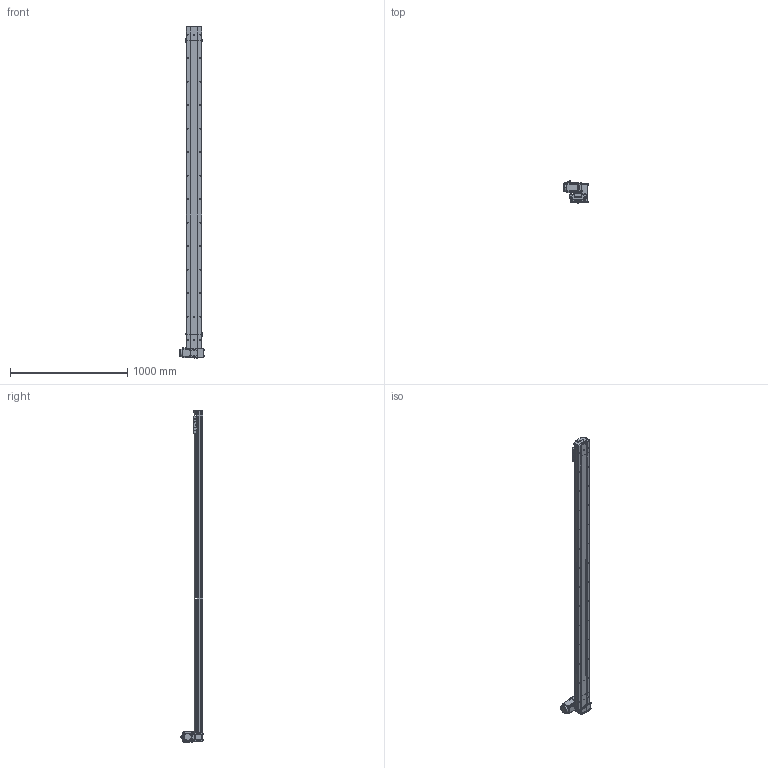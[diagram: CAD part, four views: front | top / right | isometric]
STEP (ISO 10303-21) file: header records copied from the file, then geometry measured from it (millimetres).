
FILE_DESCRIPTION (( 'STEP AP214' ), '1' );
FILE_NAME ('D14 TBH LT S2500.STEP', '2010-06-29T14:32:57', ( 'Conseil Régional Haute-Normandie' ), ( 'Conseil Régional Haute-Normandie' ), 'SwSTEP 2.0', 'SolidWorks 2010', '' );
FILE_SCHEMA (( 'AUTOMOTIVE_DESIGN' ));
Length unit declared in the file: millimetre
Products named in the file (39): corps 90BLDC100A-640; couvercle D14 head_Default; Cache arbre_Default; Arbre+rail head D14; renvoi LH_Default; vis M5 L5_Default; avant 90BLDC100A-640; couroie 2_Default; Moteur motionking 90BLDC100A-640; poulie head_Default; Plaque racord D14_Default; Conecteur_Default; Conecteur2_Default; codeur 90BLDC100-640; Cache_Default; Cvis M5 L70_Default; guide D14; Vis M5 L16-2_Default; Chariot D14; chariot D14B_Default; vis M5 L12_Default; couvercle D14 course L2500_Default; D14 couroie L2500_Default; corpl 2500_Default; Arbre+rail tail D14; plaque de  bout head D14 LT_Default; D14 TBH LT S2500; Rail + couroie D14 Course 2500 ; corp head D14_Default; corpl tail D14_Default; plaque de  bout tail D14_Default; tete d''axe haut D14; D14 TB H LT_Default; Couroie_Default; poulie tail_Default; vis M5 L8 90°_Default; Tail D14B_Default; vis M5 L16_Default; couvercle D14_Default
Assembly tree (68 placements, depth 4):
  D14 TBH LT S2500
    D14 TB H LT_Default
      Vis M5 L16-2_Default  x4
      vis M5 L12_Default  x12
      Cache arbre_Default
      Plaque racord D14_Default
      Moteur motionking 90BLDC100A-640
        Conecteur_Default
        codeur 90BLDC100-640
        Conecteur2_Default
        avant 90BLDC100A-640
        corps 90BLDC100A-640
      Cvis M5 L70_Default  x4
      corp head D14_Default
      poulie head_Default
      Arbre+rail head D14
      Cache_Default  x2
      couroie 2_Default
      plaque de  bout head D14 LT_Default
      vis M5 L5_Default  x2
      couvercle D14 head_Default
      renvoi LH_Default
    D14 couroie L2500_Default
      corpl 2500_Default
      couvercle D14 course L2500_Default
      Rail + couroie D14 Course 2500 
    chariot D14B_Default
      Chariot D14
      vis M5 L12_Default  x4
      guide D14  x2
    Tail D14B_Default
      couvercle D14_Default
      Arbre+rail tail D14
      vis M5 L8 90°_Default  x2
      vis M5 L12_Default  x4
      vis M5 L16_Default  x2
      Couroie_Default
      corpl tail D14_Default
      tete d''axe haut D14
      plaque de  bout tail D14_Default
      poulie tail_Default
Bounding box: 207.2 x 189.1 x 2825.75 mm (x, y, z)
Volume: 10644022.2 mm3; surface area: 3832691.8 mm2
Topology: 92 solids, 92 shells, 2725 faces, 6647 edges, 4290 vertices
Faces by surface type: plane 1613, cylinder 799, bspline 136, torus 89, cone 84, sphere 4
Entity records: 81980 total; most frequent: CARTESIAN_POINT 24001, ORIENTED_EDGE 10154, DIRECTION 10048, EDGE_CURVE 5077, AXIS2_PLACEMENT_3D 3351, LINE 3346, VECTOR 3346, VERTEX_POINT 3340
